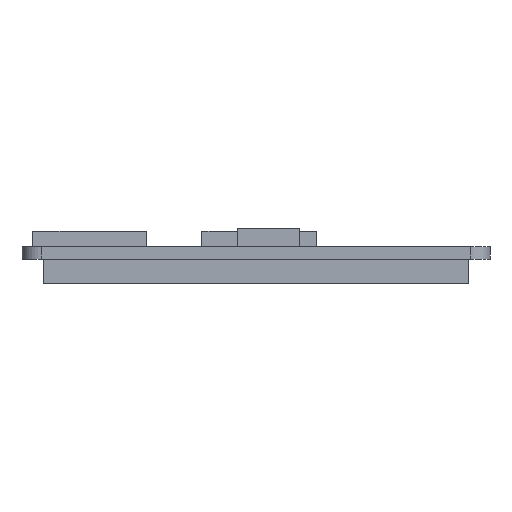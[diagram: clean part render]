
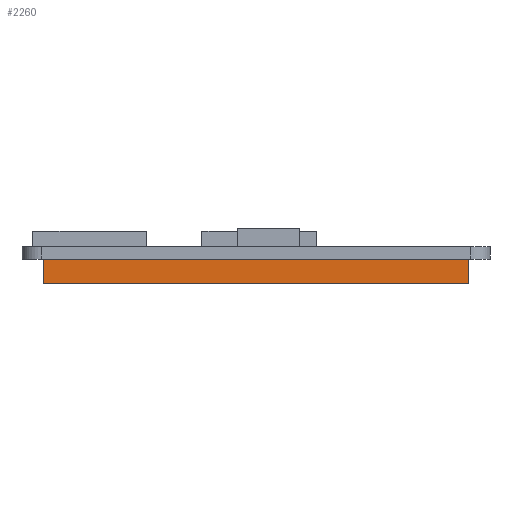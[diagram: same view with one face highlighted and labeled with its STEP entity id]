
A CAD part, left-side view. The second image highlights one B-rep face of the part: STEP entity #2260.
In plain terms, the highlighted planar face has unit normal (-1, 0, 0).
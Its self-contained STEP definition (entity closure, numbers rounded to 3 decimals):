
#492=DIRECTION('',(0.,1.,0.));
#493=VECTOR('',#492,5.59);
#494=CARTESIAN_POINT('',(473.494,551.559,-1.6));
#495=LINE('',#494,#493);
#508=DIRECTION('',(0.,1.,0.));
#509=VECTOR('',#508,34.163);
#510=CARTESIAN_POINT('',(473.494,562.229,-1.6));
#511=LINE('',#510,#509);
#524=DIRECTION('',(0.,1.,0.));
#525=VECTOR('',#524,5.587);
#526=CARTESIAN_POINT('',(473.494,601.472,-1.6));
#527=LINE('',#526,#525);
#640=DIRECTION('',(0.,0.,-1.));
#641=VECTOR('',#640,3.2);
#642=CARTESIAN_POINT('',(473.494,607.059,-1.6));
#643=LINE('',#642,#641);
#644=DIRECTION('',(0.,0.,-1.));
#645=VECTOR('',#644,3.2);
#646=CARTESIAN_POINT('',(473.494,551.559,-1.6));
#647=LINE('',#646,#645);
#660=DIRECTION('',(0.,1.,0.));
#661=VECTOR('',#660,55.5);
#662=CARTESIAN_POINT('',(473.494,551.559,-4.8));
#663=LINE('',#662,#661);
#724=DIRECTION('',(0.,1.,0.));
#725=VECTOR('',#724,5.08);
#726=CARTESIAN_POINT('',(473.494,596.392,-1.6));
#727=LINE('',#726,#725);
#728=DIRECTION('',(0.,1.,0.));
#729=VECTOR('',#728,5.08);
#730=CARTESIAN_POINT('',(473.494,557.149,-1.6));
#731=LINE('',#730,#729);
#1322=CARTESIAN_POINT('',(473.494,551.559,-4.8));
#1323=VERTEX_POINT('',#1322);
#1324=CARTESIAN_POINT('',(473.494,607.059,-4.8));
#1325=VERTEX_POINT('',#1324);
#1345=CARTESIAN_POINT('',(473.494,551.559,-1.6));
#1347=VERTEX_POINT('',#1345);
#1348=CARTESIAN_POINT('',(473.494,557.149,-1.6));
#1349=VERTEX_POINT('',#1348);
#1350=CARTESIAN_POINT('',(473.494,562.229,-1.6));
#1351=CARTESIAN_POINT('',(473.494,596.392,-1.6));
#1352=VERTEX_POINT('',#1350);
#1353=VERTEX_POINT('',#1351);
#1354=CARTESIAN_POINT('',(473.494,601.472,-1.6));
#1355=CARTESIAN_POINT('',(473.494,607.059,-1.6));
#1356=VERTEX_POINT('',#1354);
#1357=VERTEX_POINT('',#1355);
#2241=CARTESIAN_POINT('',(473.494,551.559,-1.6));
#2242=DIRECTION('',(-1.,0.,0.));
#2243=DIRECTION('',(0.,1.,0.));
#2244=AXIS2_PLACEMENT_3D('',#2241,#2242,#2243);
#2245=PLANE('',#2244);
#2246=ORIENTED_EDGE('',*,*,#1780,.F.);
#2248=ORIENTED_EDGE('',*,*,#2247,.T.);
#2250=ORIENTED_EDGE('',*,*,#2249,.T.);
#2251=ORIENTED_EDGE('',*,*,#2220,.F.);
#2252=ORIENTED_EDGE('',*,*,#1796,.F.);
#2254=ORIENTED_EDGE('',*,*,#2253,.F.);
#2255=ORIENTED_EDGE('',*,*,#1788,.F.);
#2257=ORIENTED_EDGE('',*,*,#2256,.F.);
#2258=EDGE_LOOP('',(#2246,#2248,#2250,#2251,#2252,#2254,#2255,#2257));
#2259=FACE_OUTER_BOUND('',#2258,.F.);
#1780=EDGE_CURVE('',#1347,#1349,#495,.T.);
#1788=EDGE_CURVE('',#1352,#1353,#511,.T.);
#1796=EDGE_CURVE('',#1356,#1357,#527,.T.);
#2220=EDGE_CURVE('',#1357,#1325,#643,.T.);
#2247=EDGE_CURVE('',#1347,#1323,#647,.T.);
#2249=EDGE_CURVE('',#1323,#1325,#663,.T.);
#2253=EDGE_CURVE('',#1353,#1356,#727,.T.);
#2256=EDGE_CURVE('',#1349,#1352,#731,.T.);
#2260=ADVANCED_FACE('',(#2259),#2245,.T.);
